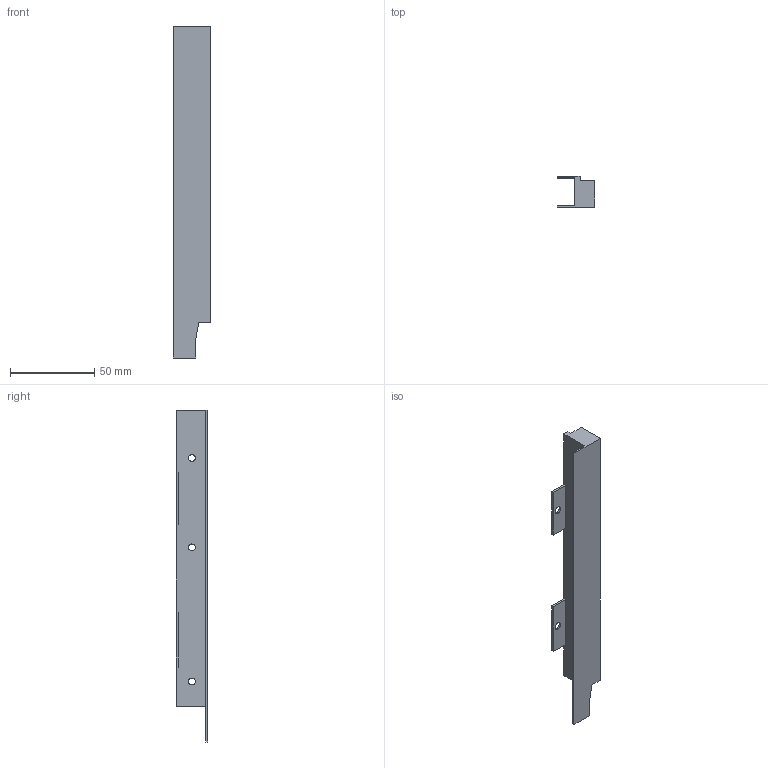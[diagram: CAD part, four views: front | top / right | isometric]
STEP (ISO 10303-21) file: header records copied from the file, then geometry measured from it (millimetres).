
FILE_DESCRIPTION (( 'STEP AP214' ), '1' );
FILE_NAME ('DWD-XP_Holzrueckwandadapter rechts H214 offen.step', '2010-09-27T15:14:25', ( 'grass' ), ( '' ), 'SwSTEP 2.0', 'SolidWorks 2010', '' );
FILE_SCHEMA (( 'AUTOMOTIVE_DESIGN' ));
Length unit declared in the file: millimetre
Products named in the file (1): DWD-XP_Holzrueckwandadapter rechts H214 offen
Bounding box: 22 x 18.5 x 197 mm (x, y, z)
Volume: 37192.3 mm3; surface area: 16937.8 mm2
Topology: 1 solids, 1 shells, 31 faces, 87 edges, 58 vertices
Faces by surface type: plane 21, cylinder 10
Entity records: 1055 total; most frequent: CARTESIAN_POINT 177, ORIENTED_EDGE 174, DIRECTION 171, EDGE_CURVE 87, VECTOR 67, LINE 67, VERTEX_POINT 58, AXIS2_PLACEMENT_3D 52
